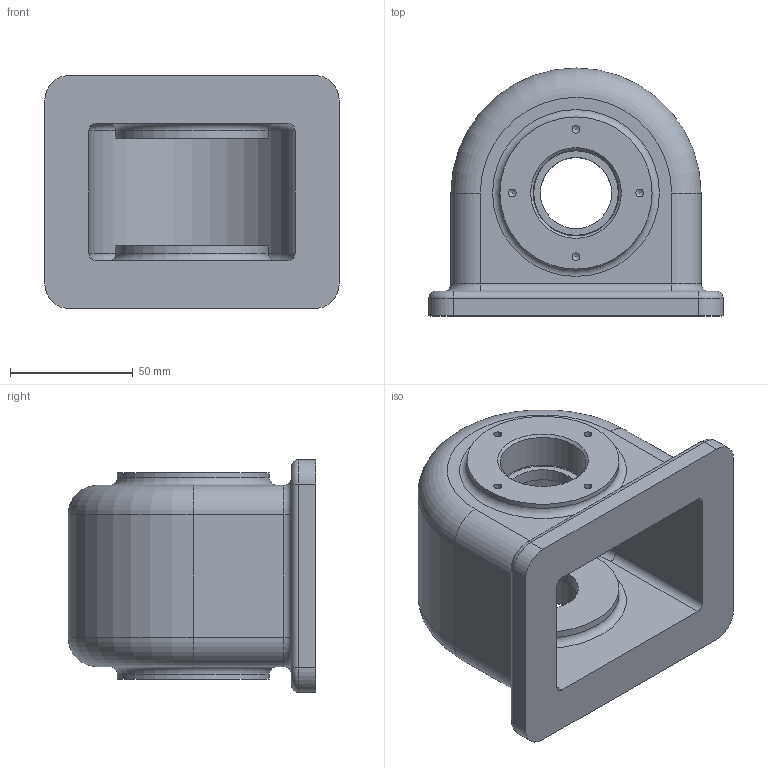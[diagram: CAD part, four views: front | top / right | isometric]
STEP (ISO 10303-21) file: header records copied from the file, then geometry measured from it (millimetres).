
FILE_DESCRIPTION((''),'2;1');
FILE_NAME('C:\Users\05-01\Desktop\aa (2)\1본체.stp','2018-07-21T16:15:04',('05-01'),(''),'Autodesk Inventor 2013','Autodesk Inventor 2013','');
FILE_SCHEMA(('AUTOMOTIVE_DESIGN { 1 0 10303 214 1 1 1 1 }'));
Length unit declared in the file: millimetre
Products named in the file (1): 1본체
Bounding box: 120 x 101 x 95 mm (x, y, z)
Volume: 345148.5 mm3; surface area: 77113.1 mm2
Topology: 1 solids, 1 shells, 86 faces, 188 edges, 112 vertices
Faces by surface type: cylinder 38, plane 20, torus 18, cone 10
Full cylindrical faces by diameter (mm): 3.242 x8, 29 x2, 35 x2, 62 x4
Entity records: 2150 total; most frequent: DIRECTION 418, CARTESIAN_POINT 339, ORIENTED_EDGE 296, AXIS2_PLACEMENT_3D 183, EDGE_CURVE 148, EDGE_LOOP 130, VERTEX_POINT 104, CIRCLE 96
